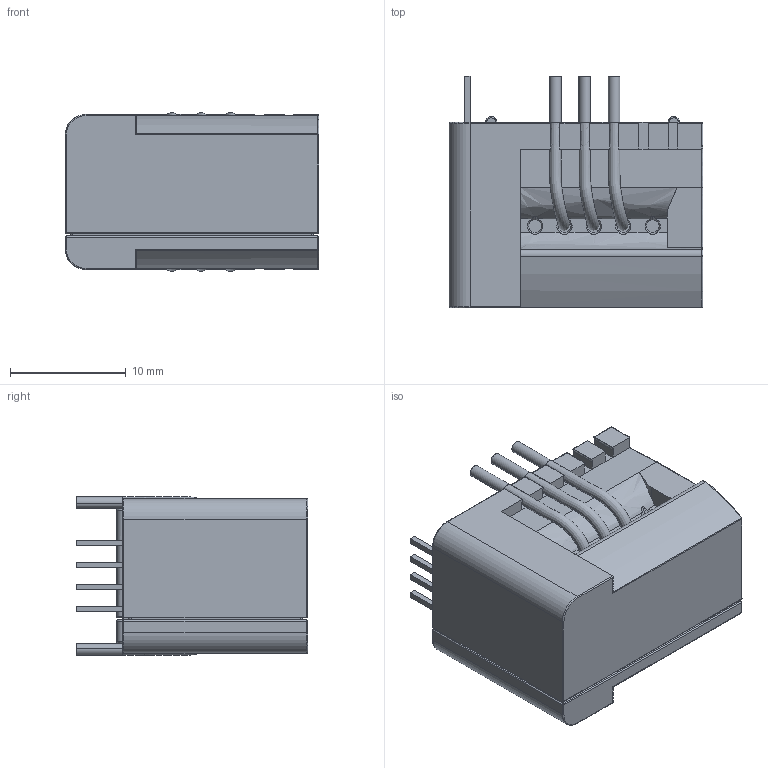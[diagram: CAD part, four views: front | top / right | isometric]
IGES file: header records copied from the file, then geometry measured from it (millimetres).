
Start section: Elysium IGES Interface
Global section: file name: \\Gva50\sd-data\Etudes\GVu\BLACK BOX\CASR\CASR 6-15-25-50-NP Blackbox\CASR 6-15-25-50-NP Blackbox.igs; native system: SolidDesigner 16.00A  16-Aug-2008; preprocessor: CoCreate IGES_3D V2.2; author: Unknown; organization: Unknown; date: 20090604.145336; units: millimetre
Bounding box: 21.91 x 20 x 13.7 mm (x, y, z)
Volume: 4246.2 mm3; surface area: 2291.5 mm2
Topology: 8 solids, 8 shells, 355 faces, 913 edges, 571 vertices
Faces by surface type: bspline 355
